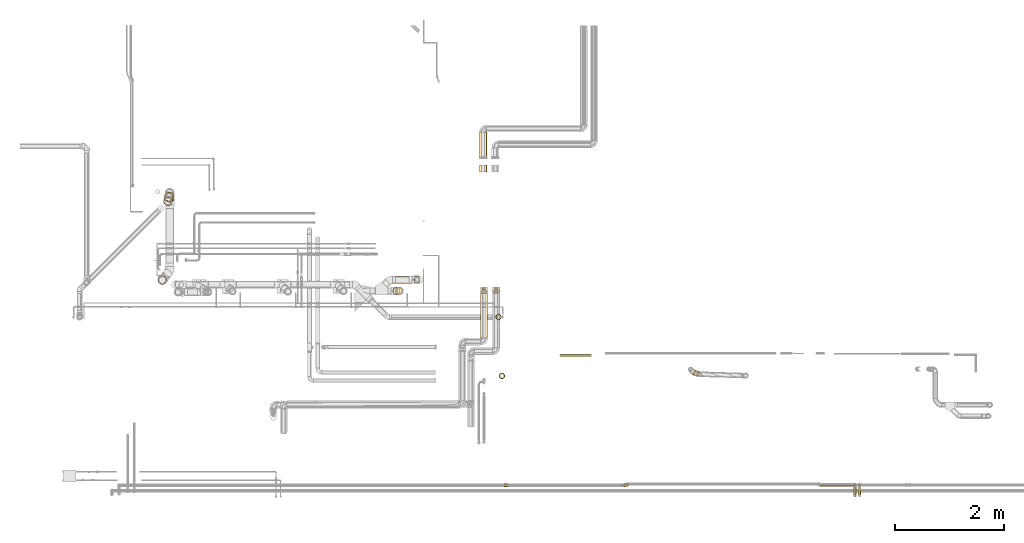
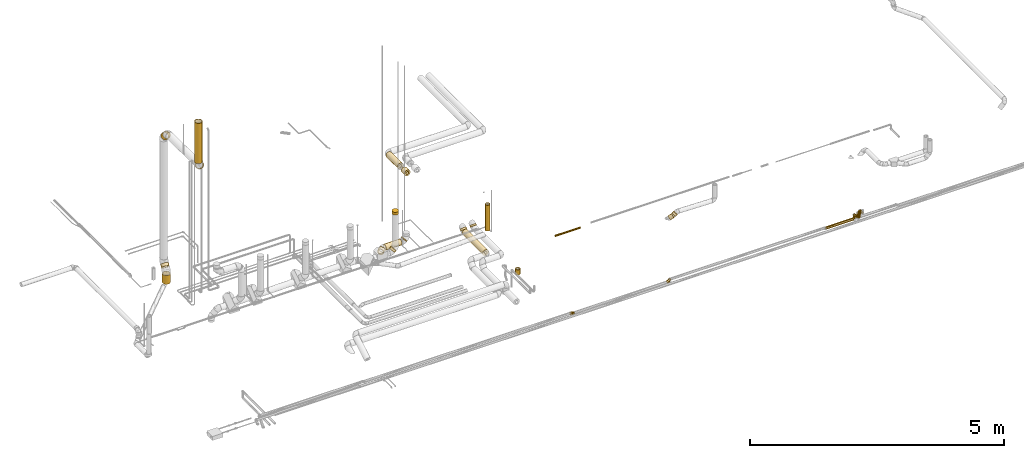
# One storey, part 4 of 156: 30 coverings.
"""IFC2X3 building model written with IfcOpenShell, lengths in millimetres."""

from ifc_helpers import new_model, entity, si_unit, converted_unit, derived_unit, direction, frame, origin_with_axes, origin_2d_with_axis, place, context, subcontext, project, spatial, hollow_circle, extrude, open_shell, surface_model, source, transform, mapped, element, save


model = new_model("IFC2X3")

# Units and contexts
model_context = context("Model", 3, precision=0.01, world=frame((0.0, 4.29681676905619e-09, 0.0)), true_north=direction((4.01073788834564e-13, 1.0)))
plan_context = context("Plan", 3, precision=0.01, world=frame((0.0, 4.29681676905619e-09, 0.0)), true_north=direction((4.01073788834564e-13, 1.0)))
body_context = subcontext(model_context, "Body", "Model", "MODEL_VIEW")
ifc_project = project(units=[converted_unit("PLANEANGLEUNIT", "DEGREE", entity("IfcPositiveLengthMeasure", 0.0174532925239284), si_unit("PLANEANGLEUNIT", "RADIAN"), dimensions=[0, 0, 0, 0, 0, 0, 0]), si_unit("AREAUNIT", "SQUARE_METRE"), si_unit("LENGTHUNIT", "METRE", prefix="MILLI"), si_unit("MASSUNIT", "GRAM", prefix="KILO"), si_unit("POWERUNIT", "WATT"), si_unit("PRESSUREUNIT", "PASCAL", prefix="KILO"), si_unit("FORCEUNIT", "NEWTON", prefix="KILO"), si_unit("ELECTRICVOLTAGEUNIT", "VOLT"), si_unit("ELECTRICCURRENTUNIT", "AMPERE"), si_unit("THERMODYNAMICTEMPERATUREUNIT", "DEGREE_CELSIUS"), si_unit("TIMEUNIT", "SECOND"), si_unit("VOLUMEUNIT", "CUBIC_METRE"), derived_unit("LINEARVELOCITYUNIT", [(si_unit("LENGTHUNIT", "METRE"), 1), (si_unit("TIMEUNIT", "SECOND"), -1)]), derived_unit("VOLUMETRICFLOWRATEUNIT", [(si_unit("VOLUMEUNIT", "CUBIC_METRE"), 1), (si_unit("TIMEUNIT", "SECOND"), -1)]), derived_unit("THERMALTRANSMITTANCEUNIT", [(si_unit("POWERUNIT", "WATT"), 1), (si_unit("THERMODYNAMICTEMPERATUREUNIT", "KELVIN"), -1), (si_unit("AREAUNIT", "SQUARE_METRE"), -1)]), derived_unit("SOUNDPRESSUREUNIT", [(si_unit("PRESSUREUNIT", "PASCAL"), 1)])], contexts=[model_context, plan_context])

# Site, building, storey
site_placement = place(None, frame((0.0, -4.29681676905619e-09, 0.0), z_axis=(0.0, 0.0, 1.0), x_axis=(1.0, 0.0, 0.0)))
site = spatial("IfcSite", under=ifc_project, at=site_placement, CompositionType="ELEMENT")
building_placement = place(site_placement, frame((0.0, 4.29681676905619e-09, 0.0), z_axis=(0.0, 0.0, 1.0), x_axis=(1.0, 0.0, 0.0)))
building = spatial("IfcBuilding", under=site, at=building_placement, Name="mc-building", CompositionType="ELEMENT")
storey_placement = place(building_placement, frame((0.0, 0.0, 205200.0), z_axis=(0.0, 0.0, 1.0), x_axis=(1.0, 0.0, 0.0)))
storey = spatial("IfcBuildingStorey", under=building, at=storey_placement, Name="Nivå D + 1,2 m", CompositionType="ELEMENT", Elevation=205200.0)

# Coverings
shared_shape_1 = source(origin_with_axes(), body_context, "Body", "SweptSolid", [
    extrude(hollow_circle(Radius=68.0, WallThickness=13.0, at=origin_2d_with_axis()), frame((0.0, 0.0, 0.0), z_axis=(1.0, 0.0, 0.0), x_axis=(0.0, 1.0, 0.0)), (0.0, 0.0, 1.0), 20.3),
])
covering_1_placement = place(storey_placement, frame((328857.15952, 462815.30448, 4264.11348999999), z_axis=(-0.707106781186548, 0.0, 0.707106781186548), x_axis=(0.707106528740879, -0.000844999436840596, 0.707106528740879)))
element("IfcCovering", 1, at=covering_1_placement, inside=storey, Name="BI17T - Cellegummi 13 mm SPV fett", PredefinedType="INSULATION", context=body_context, shape_type="MappedRepresentation", body=[
    mapped(shared_shape_1, transform((0.0, 0.0, 0.0), scale=1.0)),
])
shared_shape_2 = source(origin_with_axes(), body_context, "Body", "SweptSolid", [
    extrude(hollow_circle(Radius=68.0, WallThickness=13.0, at=origin_2d_with_axis()), frame((0.0, 0.0, 0.0), z_axis=(1.0, 0.0, 0.0), x_axis=(0.0, 1.0, 0.0)), (0.0, 0.0, 1.0), 85.8),
])
covering_2_placement = place(storey_placement, frame((328268.63286, 462719.23103, 4225.30914999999), z_axis=(0.707204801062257, -0.706792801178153, -0.017472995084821), x_axis=(0.707008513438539, 0.707008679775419, 0.0166639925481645)))
element("IfcCovering", 2, at=covering_2_placement, inside=storey, Name="BI17T - Cellegummi 13 mm SPV fett", PredefinedType="INSULATION", context=body_context, shape_type="MappedRepresentation", body=[
    mapped(shared_shape_2, transform((0.0, 0.0, 0.0), scale=1.0)),
])
shared_shape_3 = source(origin_with_axes(), body_context, "Body", "SweptSolid", [
    extrude(hollow_circle(Radius=68.0, WallThickness=13.0, at=origin_2d_with_axis()), frame((0.0, 0.0, 0.0), z_axis=(1.0, 0.0, 0.0), x_axis=(0.0, 1.0, 0.0)), (0.0, 0.0, 1.0), 358.8),
])
covering_3_placement = place(storey_placement, frame((328414.83667, 462815.30448, 4227.88579), z_axis=(-0.00224200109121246, 0.0, 0.999997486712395), x_axis=(0.999997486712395, 0.0, 0.00224200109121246)))
element("IfcCovering", 3, at=covering_3_placement, inside=storey, Name="BI17T - Cellegummi 13 mm SPV fett", PredefinedType="INSULATION", context=body_context, shape_type="MappedRepresentation", body=[
    mapped(shared_shape_3, transform((0.0, 0.0, 0.0), scale=1.0)),
])
shared_shape_4 = source(origin_with_axes(), body_context, "Body", "SurfaceModel", [
    surface_model("IfcShellBasedSurfaceModel", [(68.0, 34.0, 58.88973), (0.0, 34.0, 58.88973), (0.0, 17.5997, 65.68295), (68.0, 17.5997, 65.68295), (0.0, 0.0, 68.0), (68.0, 48.08326, 48.08326), (68.0, 0.0, 68.0), (0.0, 48.08326, 48.08326), (68.0, -34.0, 58.88973), (0.0, -34.0, 58.88973), (0.0, -48.08326, 48.08326), (0.0, -17.5997, 65.68295), (68.0, -17.5997, 65.68295), (68.0, -48.08326, 48.08326), (68.0, -58.88973, 34.0), (0.0, -58.88973, 34.0), (0.0, -65.68295, 17.5997), (68.0, -65.68295, 17.5997), (0.0, -68.0, 0.0), (68.0, -68.0, 0.0), (68.0, -65.68295, -17.5997), (0.0, -65.68295, -17.5997), (0.0, -58.88973, -34.0), (68.0, -58.88973, -34.0), (0.0, -48.08326, -48.08326), (68.0, -48.08326, -48.08326), (68.0, -34.0, -58.88973), (0.0, -34.0, -58.88973), (0.0, -17.5997, -65.68295), (68.0, -17.5997, -65.68295), (0.0, 0.0, -68.0), (68.0, 0.0, -68.0), (68.0, 17.5997, -65.68295), (0.0, 17.5997, -65.68295), (0.0, 34.0, -58.88973), (68.0, 34.0, -58.88973), (0.0, 48.08326, -48.08326), (68.0, 48.08326, -48.08326), (68.0, 58.88973, -34.0), (0.0, 58.88973, -34.0), (0.0, 65.68295, -17.5997), (68.0, 65.68295, -17.5997), (0.0, 68.0, 0.0), (68.0, 68.0, 0.0), (68.0, 65.68295, 17.5997), (68.0, 58.88973, 34.0), (0.0, 58.88973, 34.0), (0.0, 65.68295, 17.5997)], [open_shell([[[0, 1, 2]], [[3, 2, 4]], [[5, 1, 0]], [[0, 2, 3]], [[4, 6, 3]], [[1, 5, 7]], [[8, 9, 10]], [[6, 11, 12]], [[11, 6, 4]], [[12, 11, 9]], [[9, 8, 12]], [[10, 13, 8]], [[14, 15, 16]], [[17, 16, 18]], [[13, 15, 14]], [[14, 16, 17]], [[18, 19, 17]], [[15, 13, 10]], [[20, 21, 22]], [[23, 22, 24]], [[18, 21, 19]], [[19, 21, 20]], [[22, 23, 20]], [[24, 25, 23]], [[26, 27, 28]], [[29, 28, 30]], [[25, 27, 26]], [[26, 28, 29]], [[30, 31, 29]], [[27, 25, 24]], [[32, 33, 34]], [[35, 34, 36]], [[30, 33, 31]], [[31, 33, 32]], [[34, 35, 32]], [[36, 37, 35]], [[38, 39, 40]], [[41, 40, 42]], [[37, 39, 38]], [[38, 40, 41]], [[42, 43, 41]], [[39, 37, 36]], [[38, 35, 37]], [[38, 32, 35]], [[41, 43, 32]], [[41, 32, 38]], [[32, 43, 31]], [[31, 44, 29]], [[29, 44, 26]], [[5, 25, 26]], [[25, 0, 23]], [[23, 0, 20]], [[44, 31, 43]], [[45, 5, 26]], [[25, 5, 0]], [[3, 6, 20]], [[3, 20, 0]], [[6, 19, 20]], [[17, 12, 14]], [[17, 19, 6]], [[14, 8, 13]], [[8, 14, 12]], [[6, 12, 17]], [[45, 26, 44]], [[21, 18, 4]], [[4, 2, 21]], [[7, 22, 1]], [[1, 21, 2]], [[7, 46, 27]], [[9, 15, 10]], [[15, 9, 11]], [[11, 16, 15]], [[11, 4, 16]], [[4, 18, 16]], [[46, 47, 27]], [[33, 42, 40]], [[33, 40, 39]], [[34, 33, 39]], [[34, 39, 36]], [[42, 33, 30]], [[24, 22, 7]], [[21, 1, 22]], [[28, 27, 47]], [[24, 7, 27]], [[42, 30, 28]], [[28, 47, 42]], [[44, 47, 46]], [[45, 46, 7]], [[42, 47, 43]], [[43, 47, 44]], [[46, 45, 44]], [[7, 5, 45]]])]),
])
covering_4_placement = place(storey_placement, frame((328539.54391, 462607.54997, 5130.97500999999), z_axis=(1.0, 0.0, 0.0), x_axis=(0.0, 0.0, 1.0)))
element("IfcCovering", 4, at=covering_4_placement, inside=storey, Name="BI17T - Cellegummi 13 mm SPV fett", PredefinedType="INSULATION", context=body_context, shape_type="MappedRepresentation", body=[
    mapped(shared_shape_4, transform((0.0, 0.0, 0.0), scale=1.0)),
])
shared_shape_5 = source(origin_with_axes(), body_context, "Body", "SweptSolid", [
    extrude(hollow_circle(Radius=50.5, WallThickness=13.0, at=origin_2d_with_axis()), frame((0.0, 0.0, 0.0), z_axis=(1.0, 0.0, 0.0), x_axis=(0.0, 1.0, 0.0)), (0.0, 0.0, 1.0), 623.2),
])
covering_5_placement = place(storey_placement, frame((330364.34908, 462127.61957, 4384.38821999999), z_axis=(0.0, -1.0, 0.0), x_axis=(0.0, 0.0, 1.0)))
element("IfcCovering", 5, at=covering_5_placement, inside=storey, Name="BI17T - Cellegummi 13 mm SPV fett", PredefinedType="INSULATION", context=body_context, shape_type="MappedRepresentation", body=[
    mapped(shared_shape_5, transform((0.0, 0.0, 0.0), scale=1.0)),
])
shared_shape_6 = source(origin_with_axes(), body_context, "Body", "SweptSolid", [
    extrude(hollow_circle(Radius=68.0, WallThickness=13.0, at=origin_2d_with_axis()), frame((0.0, 0.0, 0.0), z_axis=(1.0, 0.0, 0.0), x_axis=(0.0, 1.0, 0.0)), (0.0, 0.0, 1.0), 48.8),
])
covering_6_placement = place(storey_placement, frame((328469.56393, 462607.66, 4262.90057), z_axis=(-0.707106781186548, 0.0, 0.707106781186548), x_axis=(0.707106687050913, 0.00051599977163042, 0.707106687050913)))
element("IfcCovering", 6, at=covering_6_placement, inside=storey, Name="BI17T - Cellegummi 13 mm SPV fett", PredefinedType="INSULATION", context=body_context, shape_type="MappedRepresentation", body=[
    mapped(shared_shape_6, transform((0.0, 0.0, 0.0), scale=1.0)),
])
shared_shape_7 = source(origin_with_axes(), body_context, "Body", "SweptSolid", [
    extrude(hollow_circle(Radius=80.5, WallThickness=13.0, at=origin_2d_with_axis()), frame((0.0, 0.0, 0.0), z_axis=(1.0, 0.0, 0.0), x_axis=(0.0, 1.0, 0.0)), (0.0, 0.0, 1.0), 212.7),
])
covering_7_placement = place(storey_placement, frame((324277.18387, 464258.44053, 3964.60780999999), z_axis=(-0.195603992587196, -0.980682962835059, 6.69999974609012e-05), x_axis=(-8.49475217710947e-05, 8.52631019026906e-05, 0.999999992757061)))
element("IfcCovering", 7, at=covering_7_placement, inside=storey, Name="BI17T - Cellegummi 13 mm SPV fett", PredefinedType="INSULATION", context=body_context, shape_type="MappedRepresentation", body=[
    mapped(shared_shape_7, transform((0.0, 0.0, 0.0), scale=1.0)),
])
shared_shape_8 = source(origin_with_axes(), body_context, "Body", "SweptSolid", [
    extrude(hollow_circle(Radius=80.5, WallThickness=13.0, at=origin_2d_with_axis()), frame((0.0, 0.0, 0.0), z_axis=(1.0, 0.0, 0.0), x_axis=(0.0, 1.0, 0.0)), (0.0, 0.0, 1.0), 69.6),
])
covering_8_placement = place(storey_placement, frame((324287.63816, 464310.96305, 4291.50883999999), z_axis=(-0.125082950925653, -0.627117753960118, 0.768815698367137), x_axis=(0.150384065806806, 0.753964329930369, 0.639470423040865)))
element("IfcCovering", 8, at=covering_8_placement, inside=storey, Name="BI17T - Cellegummi 13 mm SPV fett", PredefinedType="INSULATION", context=body_context, shape_type="MappedRepresentation", body=[
    mapped(shared_shape_8, transform((0.0, 0.0, 0.0), scale=1.0)),
])
shared_shape_9 = source(origin_with_axes(), body_context, "Body", "SweptSolid", [
    extrude(hollow_circle(Radius=80.5, WallThickness=13.0, at=origin_2d_with_axis()), frame((0.0, 0.0, 0.0), z_axis=(1.0, 0.0, 0.0), x_axis=(0.0, 1.0, 0.0)), (0.0, 0.0, 1.0), 108.5),
])
covering_9_placement = place(storey_placement, frame((324308.57539, 464372.43938, 7400.41643000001), z_axis=(0.0, 0.707106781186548, 0.707106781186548), x_axis=(0.0, -0.707106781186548, 0.707106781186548)))
element("IfcCovering", 9, at=covering_9_placement, inside=storey, Name="BI17T - Cellegummi 13 mm SPV fett", PredefinedType="INSULATION", context=body_context, shape_type="MappedRepresentation", body=[
    mapped(shared_shape_9, transform((0.0, 0.0, 0.0), scale=1.0)),
])
shared_shape_10 = source(origin_with_axes(), body_context, "Body", "SweptSolid", [
    extrude(hollow_circle(Radius=80.5, WallThickness=13.0, at=origin_2d_with_axis()), frame((0.0, 0.0, 0.0), z_axis=(1.0, 0.0, 0.0), x_axis=(0.0, 1.0, 0.0)), (0.0, 0.0, 1.0), 137.7),
])
covering_10_placement = place(storey_placement, frame((324274.58821, 462938.23029, 7584.90148), z_axis=(0.0, 0.707106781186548, 0.707106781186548), x_axis=(-0.483684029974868, -0.618890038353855, 0.618890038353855)))
element("IfcCovering", 10, at=covering_10_placement, inside=storey, Name="BI17T - Cellegummi 13 mm SPV fett", PredefinedType="INSULATION", context=body_context, shape_type="MappedRepresentation", body=[
    mapped(shared_shape_10, transform((0.0, 0.0, 0.0), scale=1.0)),
])
shared_shape_11 = source(origin_with_axes(), body_context, "Body", "SweptSolid", [
    extrude(hollow_circle(Radius=80.5, WallThickness=13.0, at=origin_2d_with_axis()), frame((0.0, 0.0, 0.0), z_axis=(1.0, 0.0, 0.0), x_axis=(0.0, 1.0, 0.0)), (0.0, 0.0, 1.0), 967.9),
])
covering_11_placement = place(storey_placement, frame((324173.14379, 462808.42883, 7786.75443999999), z_axis=(1.0, 0.0, 0.0), x_axis=(0.0, 0.0, 1.0)))
element("IfcCovering", 11, at=covering_11_placement, inside=storey, Name="BI17T - Cellegummi 13 mm SPV fett", PredefinedType="INSULATION", context=body_context, shape_type="MappedRepresentation", body=[
    mapped(shared_shape_11, transform((0.0, 0.0, 0.0), scale=1.0)),
])
shared_shape_12 = source(origin_with_axes(), body_context, "Body", "SweptSolid", [
    extrude(hollow_circle(Radius=67.5, WallThickness=35.0, at=origin_2d_with_axis()), frame((0.0, 0.0, 0.0), z_axis=(1.0, 0.0, 0.0), x_axis=(0.0, 1.0, 0.0)), (0.0, 0.0, 1.0), 817.3),
])
covering_12_placement = place(storey_placement, frame((330095.05549, 461740.27263, 4163.33854999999), z_axis=(0.0, 0.0, 1.0), x_axis=(0.000256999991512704, 0.999999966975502, 0.0)))
element("IfcCovering", 12, at=covering_12_placement, inside=storey, Name="BI10T - Cellegummi 18-32 mm kalde rør", PredefinedType="INSULATION", context=body_context, shape_type="MappedRepresentation", body=[
    mapped(shared_shape_12, transform((0.0, 0.0, 0.0), scale=1.0)),
])
shared_shape_13 = source(origin_with_axes(), body_context, "Body", "SweptSolid", [
    extrude(hollow_circle(Radius=50.5, WallThickness=13.0, at=origin_2d_with_axis()), frame((0.0, 0.0, 0.0), z_axis=(1.0, 0.0, 0.0), x_axis=(0.0, 1.0, 0.0)), (0.0, 0.0, 1.0), 89.4),
])
covering_13_placement = place(storey_placement, frame((333995.38592, 461091.15942, 4095.23874999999), z_axis=(-0.65798680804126, -0.705309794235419, 0.263801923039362), x_axis=(-0.660533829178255, 0.372372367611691, -0.651946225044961)))
element("IfcCovering", 13, at=covering_13_placement, inside=storey, Name="BI17T - Cellegummi 13 mm SPV fett", PredefinedType="INSULATION", context=body_context, shape_type="MappedRepresentation", body=[
    mapped(shared_shape_13, transform((0.0, 0.0, 0.0), scale=1.0)),
])
shared_shape_14 = source(origin_with_axes(), body_context, "Body", "SweptSolid", [
    extrude(hollow_circle(Radius=50.5, WallThickness=13.0, at=origin_2d_with_axis()), frame((0.0, 0.0, 0.0), z_axis=(1.0, 0.0, 0.0), x_axis=(0.0, 1.0, 0.0)), (0.0, 0.0, 1.0), 53.2),
])
covering_14_placement = place(storey_placement, frame((334045.15307, 461079.14928, 4144.92709000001), z_axis=(-0.0795270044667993, -0.990159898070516, -0.115147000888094), x_axis=(-0.700370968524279, 0.137698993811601, -0.700370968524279)))
element("IfcCovering", 14, at=covering_14_placement, inside=storey, Name="BI17T - Cellegummi 13 mm SPV fett", PredefinedType="INSULATION", context=body_context, shape_type="MappedRepresentation", body=[
    mapped(shared_shape_14, transform((0.0, 0.0, 0.0), scale=1.0)),
])
shared_shape_15 = source(origin_with_axes(), body_context, "Body", "SweptSolid", [
    extrude(hollow_circle(Radius=50.5, WallThickness=13.0, at=origin_2d_with_axis()), frame((0.0, 0.0, 0.0), z_axis=(1.0, 0.0, 0.0), x_axis=(0.0, 1.0, 0.0)), (0.0, 0.0, 1.0), 122.1),
])
covering_15_placement = place(storey_placement, frame((330426.17907, 461043.225, 3965.23793), z_axis=(-0.951056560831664, 0.309016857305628, 0.0), x_axis=(0.0, 0.0, 1.0)))
element("IfcCovering", 15, at=covering_15_placement, inside=storey, Name="BI17T - Cellegummi 13 mm SPV fett", PredefinedType="INSULATION", context=body_context, shape_type="MappedRepresentation", body=[
    mapped(shared_shape_15, transform((0.0, 0.0, 0.0), scale=1.0)),
])
shared_shape_16 = source(origin_with_axes(), body_context, "Body", "SweptSolid", [
    extrude(hollow_circle(Radius=30.0, WallThickness=25.0, at=origin_2d_with_axis()), frame((0.0, 0.0, 0.0), z_axis=(1.0, 0.0, 0.0), x_axis=(0.0, 1.0, 0.0)), (0.0, 0.0, 1.0), 80.0),
])
covering_16_placement = place(storey_placement, frame((330458.6943, 459031.28638, 4218.02187), z_axis=(0.242535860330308, 0.0, 0.970142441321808), x_axis=(0.970142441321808, 0.0, -0.242535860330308)))
element("IfcCovering", 16, at=covering_16_placement, inside=storey, Name="BI10T - Cellegummi 18-32 mm kalde rør", PredefinedType="INSULATION", context=body_context, shape_type="MappedRepresentation", body=[
    mapped(shared_shape_16, transform((0.0, 0.0, 0.0), scale=1.0)),
])
shared_shape_17 = source(origin_with_axes(), body_context, "Body", "SweptSolid", [
    extrude(hollow_circle(Radius=30.0, WallThickness=25.0, at=origin_2d_with_axis()), frame((0.0, 0.0, 0.0), z_axis=(1.0, 0.0, 0.0), x_axis=(0.0, 1.0, 0.0)), (0.0, 0.0, 1.0), 59.5),
])
covering_17_placement = place(storey_placement, frame((332714.89501, 459031.28638, 4219.84357), z_axis=(-0.351123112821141, 0.0, 0.936329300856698), x_axis=(-0.936329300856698, 0.0, -0.351123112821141)))
element("IfcCovering", 17, at=covering_17_placement, inside=storey, Name="BI10T - Cellegummi 18-32 mm kalde rør", PredefinedType="INSULATION", context=body_context, shape_type="MappedRepresentation", body=[
    mapped(shared_shape_17, transform((0.0, 0.0, 0.0), scale=1.0)),
])
shared_shape_18 = source(origin_with_axes(), body_context, "Body", "SweptSolid", [
    extrude(hollow_circle(Radius=30.0, WallThickness=25.0, at=origin_2d_with_axis()), frame((0.0, 0.0, 0.0), z_axis=(1.0, 0.0, 0.0), x_axis=(0.0, 1.0, 0.0)), (0.0, 0.0, 1.0), 19.6),
])
covering_18_placement = place(storey_placement, frame((332734.51468, 459048.09805, 4227.20095), z_axis=(0.169696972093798, 0.181236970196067, -0.968687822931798), x_axis=(-0.662084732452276, -0.707106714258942, -0.248281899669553)))
element("IfcCovering", 18, at=covering_18_placement, inside=storey, Name="BI10T - Cellegummi 18-32 mm kalde rør", PredefinedType="INSULATION", context=body_context, shape_type="MappedRepresentation", body=[
    mapped(shared_shape_18, transform((0.0, 0.0, 0.0), scale=1.0)),
])
shared_shape_19 = source(origin_with_axes(), body_context, "Body", "SweptSolid", [
    extrude(hollow_circle(Radius=25.0, WallThickness=20.0, at=origin_2d_with_axis()), frame((0.0, 0.0, 0.0), z_axis=(1.0, 0.0, 0.0), x_axis=(0.0, 1.0, 0.0)), (0.0, 0.0, 1.0), 79.0),
])
covering_19_placement = place(storey_placement, frame((336925.62218, 459036.28638, 4241.22044), z_axis=(-1.0, 0.0, 0.0), x_axis=(0.0, 0.0, 1.0)))
element("IfcCovering", 19, at=covering_19_placement, inside=storey, Name="BI10T - Cellegummi 18-32 mm kalde rør", PredefinedType="INSULATION", context=body_context, shape_type="MappedRepresentation", body=[
    mapped(shared_shape_19, transform((0.0, 0.0, 0.0), scale=1.0)),
])
shared_shape_20 = source(origin_with_axes(), body_context, "Body", "SweptSolid", [
    extrude(hollow_circle(Radius=30.0, WallThickness=25.0, at=origin_2d_with_axis()), frame((0.0, 0.0, 0.0), z_axis=(1.0, 0.0, 0.0), x_axis=(0.0, 1.0, 0.0)), (0.0, 0.0, 1.0), 627.6),
])
covering_20_placement = place(storey_placement, frame((336280.83333, 459036.28638, 4228.32044000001), z_axis=(0.0, 0.0, 1.0), x_axis=(1.0, 0.0, 0.0)))
element("IfcCovering", 20, at=covering_20_placement, inside=storey, Name="BI10T - Cellegummi 18-32 mm kalde rør", PredefinedType="INSULATION", context=body_context, shape_type="MappedRepresentation", body=[
    mapped(shared_shape_20, transform((0.0, 0.0, 0.0), scale=1.0)),
])
shared_shape_21 = source(origin_with_axes(), body_context, "Body", "SweptSolid", [
    extrude(hollow_circle(Radius=25.0, WallThickness=20.0, at=origin_2d_with_axis()), frame((0.0, 0.0, 0.0), z_axis=(1.0, 0.0, 0.0), x_axis=(0.0, 1.0, 0.0)), (0.0, 0.0, 1.0), 183.8),
])
covering_21_placement = place(storey_placement, frame((336925.62218, 459028.36549, 4330.00408000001), z_axis=(0.0, 0.207911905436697, 0.978147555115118), x_axis=(0.0, -0.978147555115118, 0.207911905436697)))
element("IfcCovering", 21, at=covering_21_placement, inside=storey, Name="BI10T - Cellegummi 18-32 mm kalde rør", PredefinedType="INSULATION", context=body_context, shape_type="MappedRepresentation", body=[
    mapped(shared_shape_21, transform((0.0, 0.0, 0.0), scale=1.0)),
])
shared_shape_22 = source(origin_with_axes(), body_context, "Body", "SweptSolid", [
    extrude(hollow_circle(Radius=25.0, WallThickness=20.0, at=origin_2d_with_axis()), frame((0.0, 0.0, 0.0), z_axis=(1.0, 0.0, 0.0), x_axis=(0.0, 1.0, 0.0)), (0.0, 0.0, 1.0), 156.9),
])
covering_22_placement = place(storey_placement, frame((336925.62218, 458840.65685, 4378.00062000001), z_axis=(-1.0, 0.0, 0.0), x_axis=(0.0, 0.0, 1.0)))
element("IfcCovering", 22, at=covering_22_placement, inside=storey, Name="BI10T - Cellegummi 18-32 mm kalde rør", PredefinedType="INSULATION", context=body_context, shape_type="MappedRepresentation", body=[
    mapped(shared_shape_22, transform((0.0, 0.0, 0.0), scale=1.0)),
])
shared_shape_23 = source(origin_with_axes(), body_context, "Body", "SweptSolid", [
    extrude(hollow_circle(Radius=25.0, WallThickness=20.0, at=origin_2d_with_axis()), frame((0.0, 0.0, 0.0), z_axis=(1.0, 0.0, 0.0), x_axis=(0.0, 1.0, 0.0)), (0.0, 0.0, 1.0), 100.0),
])
covering_23_placement = place(storey_placement, frame((337009.60356, 459036.28638, 4241.22044), z_axis=(0.0, 1.0, 0.0), x_axis=(0.0, 0.0, 1.0)))
element("IfcCovering", 23, at=covering_23_placement, inside=storey, Name="BI10T - Cellegummi 18-32 mm kalde rør", PredefinedType="INSULATION", context=body_context, shape_type="MappedRepresentation", body=[
    mapped(shared_shape_23, transform((0.0, 0.0, 0.0), scale=1.0)),
])
shared_shape_24 = source(origin_with_axes(), body_context, "Body", "SweptSolid", [
    extrude(hollow_circle(Radius=25.0, WallThickness=20.0, at=origin_2d_with_axis()), frame((0.0, 0.0, 0.0), z_axis=(1.0, 0.0, 0.0), x_axis=(0.0, 1.0, 0.0)), (0.0, 0.0, 1.0), 80.0),
])
covering_24_placement = place(storey_placement, frame((337009.60356, 458951.28638, 4361.22044), z_axis=(-1.0, 0.0, 0.0), x_axis=(0.0, 0.0, 1.0)))
element("IfcCovering", 24, at=covering_24_placement, inside=storey, Name="BI10T - Cellegummi 18-32 mm kalde rør", PredefinedType="INSULATION", context=body_context, shape_type="MappedRepresentation", body=[
    mapped(shared_shape_24, transform((0.0, 0.0, 0.0), scale=1.0)),
])
shared_shape_25 = source(origin_with_axes(), body_context, "Body", "SweptSolid", [
    extrude(hollow_circle(Radius=25.0, WallThickness=20.0, at=origin_2d_with_axis()), frame((0.0, 0.0, 0.0), z_axis=(1.0, 0.0, 0.0), x_axis=(0.0, 1.0, 0.0)), (0.0, 0.0, 1.0), 85.0),
])
covering_25_placement = place(storey_placement, frame((337009.60356, 458941.28638, 4451.22044), z_axis=(0.0, 0.0, 1.0), x_axis=(0.0, -1.0, 0.0)))
element("IfcCovering", 25, at=covering_25_placement, inside=storey, Name="BI10T - Cellegummi 18-32 mm kalde rør", PredefinedType="INSULATION", context=body_context, shape_type="MappedRepresentation", body=[
    mapped(shared_shape_25, transform((0.0, 0.0, 0.0), scale=1.0)),
])
shared_shape_26 = source(origin_with_axes(), body_context, "Body", "SweptSolid", [
    extrude(hollow_circle(Radius=67.5, WallThickness=35.0, at=origin_2d_with_axis()), frame((0.0, 0.0, 0.0), z_axis=(1.0, 0.0, 0.0), x_axis=(0.0, 1.0, 0.0)), (0.0, 0.0, 1.0), 456.4),
])
covering_26_placement = place(storey_placement, frame((330080.29187, 465077.66795, 4230.59706), z_axis=(0.0, 0.0, 1.0), x_axis=(0.0, 1.0, 0.0)))
element("IfcCovering", 26, at=covering_26_placement, inside=storey, Name="BI10T - Cellegummi 18-32 mm kalde rør", PredefinedType="INSULATION", context=body_context, shape_type="MappedRepresentation", body=[
    mapped(shared_shape_26, transform((0.0, 0.0, 0.0), scale=1.0)),
])
shared_shape_27 = source(origin_with_axes(), body_context, "Body", "SweptSolid", [
    extrude(hollow_circle(Radius=67.5, WallThickness=35.0, at=origin_2d_with_axis()), frame((0.0, 0.0, 0.0), z_axis=(1.0, 0.0, 0.0), x_axis=(0.0, 1.0, 0.0)), (0.0, 0.0, 1.0), 41.1),
])
covering_27_placement = place(storey_placement, frame((330095.28539, 462632.59349, 4211.46194000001), z_axis=(0.000181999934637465, 0.707106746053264, -0.707106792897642), x_axis=(-0.000181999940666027, -0.707106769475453, -0.707106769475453)))
element("IfcCovering", 27, at=covering_27_placement, inside=storey, Name="BI10T - Cellegummi 18-32 mm kalde rør", PredefinedType="INSULATION", context=body_context, shape_type="MappedRepresentation", body=[
    mapped(shared_shape_27, transform((0.0, 0.0, 0.0), scale=1.0)),
])
shared_shape_28 = source(origin_with_axes(), body_context, "Body", "SweptSolid", [
    extrude(hollow_circle(Radius=67.5, WallThickness=35.0, at=origin_2d_with_axis()), frame((0.0, 0.0, 0.0), z_axis=(1.0, 0.0, 0.0), x_axis=(0.0, 1.0, 0.0)), (0.0, 0.0, 1.0), 34.6),
])
covering_28_placement = place(storey_placement, frame((330320.29357, 462634.90431, 4216.46184999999), z_axis=(-8.29999740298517e-05, -0.70710677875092, 0.70710677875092), x_axis=(-8.30002082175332e-05, -0.707106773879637, -0.707106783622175)))
element("IfcCovering", 28, at=covering_28_placement, inside=storey, Name="BI10T - Cellegummi 18-32 mm kalde rør", PredefinedType="INSULATION", context=body_context, shape_type="MappedRepresentation", body=[
    mapped(shared_shape_28, transform((0.0, 0.0, 0.0), scale=1.0)),
])
shared_shape_29 = source(origin_with_axes(), body_context, "Body", "SweptSolid", [
    extrude(hollow_circle(Radius=67.5, WallThickness=35.0, at=origin_2d_with_axis()), frame((0.0, 0.0, 0.0), z_axis=(1.0, 0.0, 0.0), x_axis=(0.0, 1.0, 0.0)), (0.0, 0.0, 1.0), 128.1),
])
covering_29_placement = place(storey_placement, frame((330080.29033, 464801.00146, 4230.50536000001), z_axis=(0.0, -0.000245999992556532, 0.999999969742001), x_axis=(3.99999987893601e-06, 0.999999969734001, 0.000245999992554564)))
element("IfcCovering", 29, at=covering_29_placement, inside=storey, Name="BI10T - Cellegummi 18-32 mm kalde rør", PredefinedType="INSULATION", context=body_context, shape_type="MappedRepresentation", body=[
    mapped(shared_shape_29, transform((0.0, 0.0, 0.0), scale=1.0)),
])
shared_shape_30 = source(origin_with_axes(), body_context, "Body", "SweptSolid", [
    extrude(hollow_circle(Radius=21.0, WallThickness=15.0, at=origin_2d_with_axis()), frame((0.0, 0.0, 0.0), z_axis=(1.0, 0.0, 0.0), x_axis=(0.0, 1.0, 0.0)), (0.0, 0.0, 1.0), 579.2),
])
covering_30_placement = place(storey_placement, frame((331491.82315, 461424.50941, 4266.92687), z_axis=(0.0, 0.0, 1.0), x_axis=(1.0, 0.0, 0.0)))
element("IfcCovering", 30, at=covering_30_placement, inside=storey, Name="BI10T - Cellegummi 18-32 mm kalde rør", PredefinedType="INSULATION", context=body_context, shape_type="MappedRepresentation", body=[
    mapped(shared_shape_30, transform((0.0, 0.0, 0.0), scale=1.0)),
])

save(model, "model.ifc")
